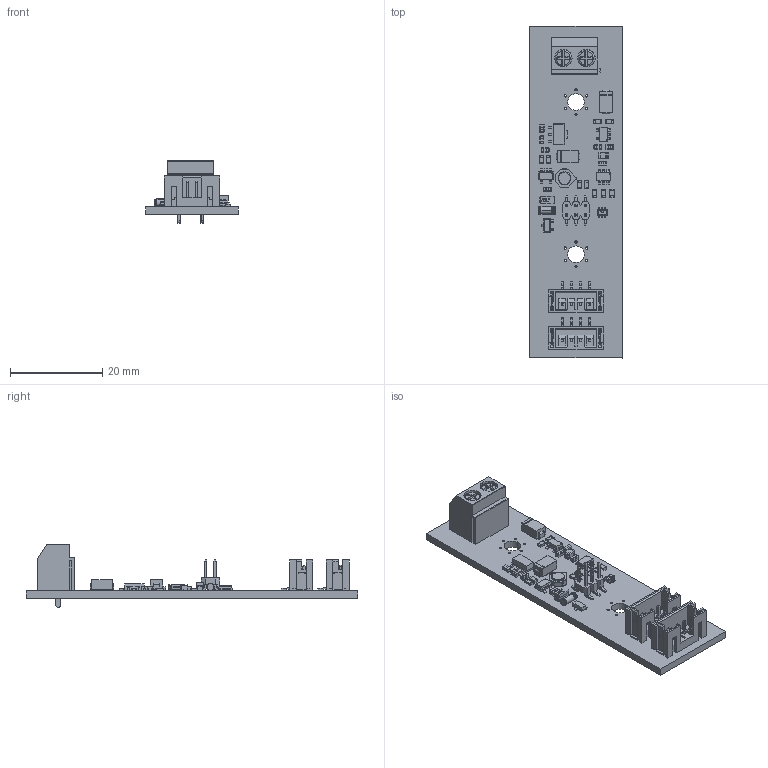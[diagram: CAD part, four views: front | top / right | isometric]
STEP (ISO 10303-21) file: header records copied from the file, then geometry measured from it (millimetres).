
FILE_DESCRIPTION(('Open CASCADE Model'),'2;1');
FILE_NAME('Open CASCADE Shape Model','2025-04-20T15:53:47',('Author'),( 'Open CASCADE'),'Open CASCADE STEP processor 6.8','Open CASCADE 6.8' ,'Unknown');
FILE_SCHEMA(('AUTOMOTIVE_DESIGN { 1 0 10303 214 1 1 1 1 }'));
Length unit declared in the file: millimetre
Products named in the file (60): PCB; Board; J4; CH71062M100-0P; 12P_6; SMT_PIN-PC; U3; MCP4725; U2; TPS783XXDDC; U1; SOT89; R7; MCR03; R6; R5; R9; R8; R4; R3; R2; R1; Q2; SOT363-2; SOT363-2_Lower_body; SOT363-2_Lead; SOT363-2_Upper_body; Q1; FDN306P; L1; CDRH3D14; Body; Body001; Body002; J3; DT-126VP-02P; J2; 126104ST; BODY; PIN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
Assembly tree (90 placements, depth 4):
  PCB
    Board
    J4
      CH71062M100-0P
        12P_6
        SMT_PIN-PC  x6
    U3
      MCP4725
    U2
      TPS783XXDDC
    U1
      SOT89
    R7
      MCR03
    R6
      MCR03
    R5
      MCR03
    R9
      MCR03
    R8
      MCR03
    R4
      MCR03
    R3
      MCR03
    R2
      MCR03
    R1
      MCR03
    Q2
      SOT363-2
        SOT363-2_Lower_body
        SOT363-2_Lead  x6
        SOT363-2_Upper_body
    Q1
      FDN306P
    L1
      CDRH3D14
        Body
        Body001
        Body002
    J3
      DT-126VP-02P
    J2
      126104ST
        BODY
        PIN  x4
        NAIL  x2
    J1
      126104ST
        BODY
        PIN  x4
        NAIL  x2
    D2
      PMLL4148L
    D1
      SK1
    C9
      GRM188
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Bounding box: 20 x 72 x 13.6 mm (x, y, z)
Volume: 3470.2 mm3; surface area: 6492.4 mm2
Topology: 64 solids, 64 shells, 3167 faces, 7991 edges, 4839 vertices
Faces by surface type: plane 1906, cylinder 904, torus 185, sphere 150, bspline 22
Full cylindrical faces by diameter (mm): 0.5 x12, 1.5 x2, 2.8 x1, 3.6 x2
Entity records: 57550 total; most frequent: CARTESIAN_POINT 9616, DIRECTION 8404, ORIENTED_EDGE 7996, EDGE_CURVE 3998, AXIS2_PLACEMENT_3D 2811, LINE 2782, VECTOR 2782, VERTEX_POINT 2447
